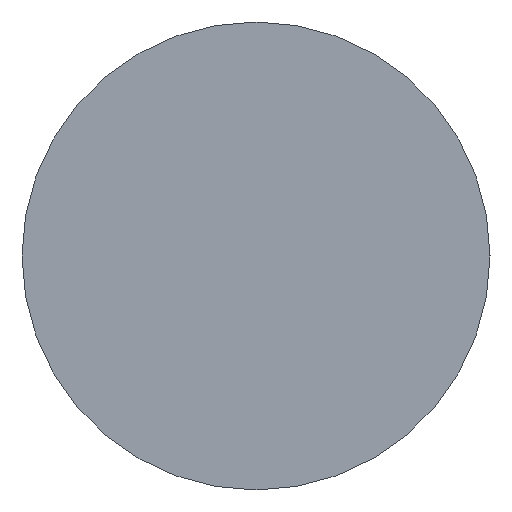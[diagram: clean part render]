
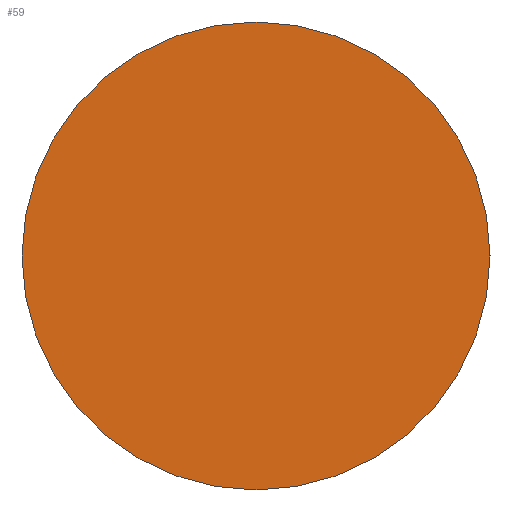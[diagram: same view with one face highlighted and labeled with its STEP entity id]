
A CAD part, left-side view. The second image highlights one B-rep face of the part: STEP entity #59.
In plain terms, the highlighted planar face has unit normal (-1, 0, 0).
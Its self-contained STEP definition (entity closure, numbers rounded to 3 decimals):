
#31 = VERTEX_POINT('',#32);
#32 = CARTESIAN_POINT('',(-13.97,0.,0.25));
#38 = EDGE_CURVE('',#31,#31,#39,.T.);
#39 = CIRCLE('',#40,0.25);
#40 = AXIS2_PLACEMENT_3D('',#41,#42,#43);
#41 = CARTESIAN_POINT('',(-13.97,0.,0.));
#42 = DIRECTION('',(1.,0.,0.));
#43 = DIRECTION('',(-0.,0.,1.));
#59 = ADVANCED_FACE('',(#60),#63,.F.);
#60 = FACE_BOUND('',#61,.T.);
#61 = EDGE_LOOP('',(#62));
#62 = ORIENTED_EDGE('',*,*,#38,.F.);
#63 = PLANE('',#64);
#64 = AXIS2_PLACEMENT_3D('',#65,#66,#67);
#65 = CARTESIAN_POINT('',(-13.97,0.,0.));
#66 = DIRECTION('',(1.,0.,0.));
#67 = DIRECTION('',(-0.,0.,1.));
